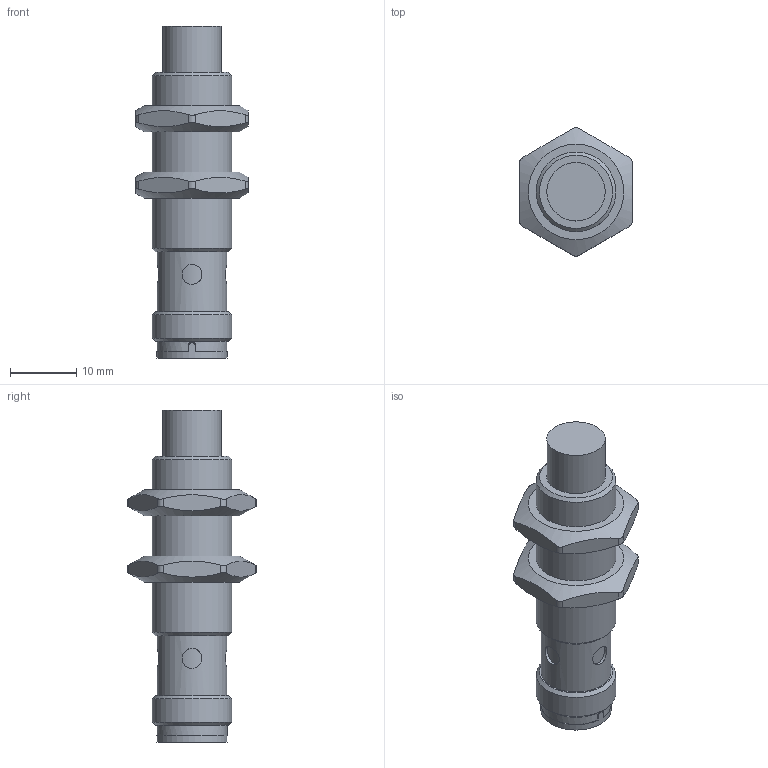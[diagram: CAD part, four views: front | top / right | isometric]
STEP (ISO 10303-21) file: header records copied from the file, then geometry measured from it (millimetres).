
FILE_DESCRIPTION(/* description */ (''),/* implementation_level */ '2;1');
FILE_NAME(/* name */ '3DCAD_IS C12MM_xxx_xNx_M12.stp',/* time_stamp */ '2021-09-17T13:16:44+02:00',/* author */ ('CC2'),/* organization */ ('Leuze electronic'),/* preprocessor_version */ 'ST-DEVELOPER v16',/* originating_system */ 'SIEMENS PLM Software NX 11.0',/* authorisation */ '');
FILE_SCHEMA (('AUTOMOTIVE_DESIGN { 1 0 10303 214 3 1 1 1 }'));
Length unit declared in the file: millimetre
Products named in the file (2): 020630_00.0_1-Mutter 6KT - M12_SW17; 19-103345_00_1-3DCAD_IS C12MM_xxx_xNx_M12
Assembly tree (2 placements, depth 2):
  19-103345_00_1-3DCAD_IS C12MM_xxx_xNx_M12
    020630_00.0_1-Mutter 6KT - M12_SW17  x2
Bounding box: 17 x 19.32 x 50 mm (x, y, z)
Volume: 5356.4 mm3; surface area: 3638.4 mm2
Topology: 3 solids, 4 shells, 103 faces, 313 edges, 221 vertices
Faces by surface type: plane 45, cylinder 43, cone 11, sphere 4
Full cylindrical faces by diameter (mm): 1 x4, 3 x4, 8.8 x1, 9.5 x1, 9.6 x2, 10.5 x2, 10.6 x1, 12 x4
Entity records: 2977 total; most frequent: CARTESIAN_POINT 1019, ORIENTED_EDGE 378, DIRECTION 358, EDGE_CURVE 189, VERTEX_POINT 146, AXIS2_PLACEMENT_3D 145, EDGE_LOOP 129, ADVANCED_FACE 86
